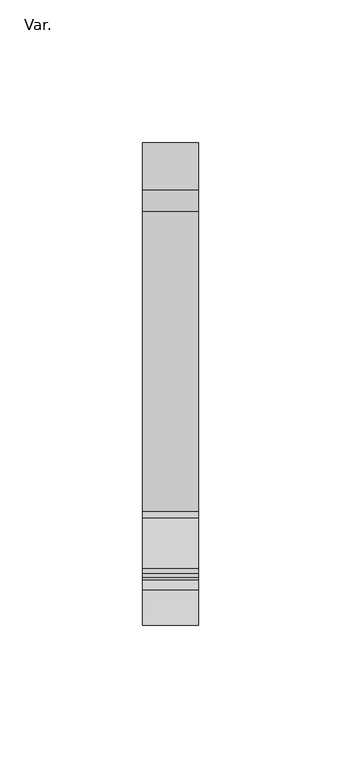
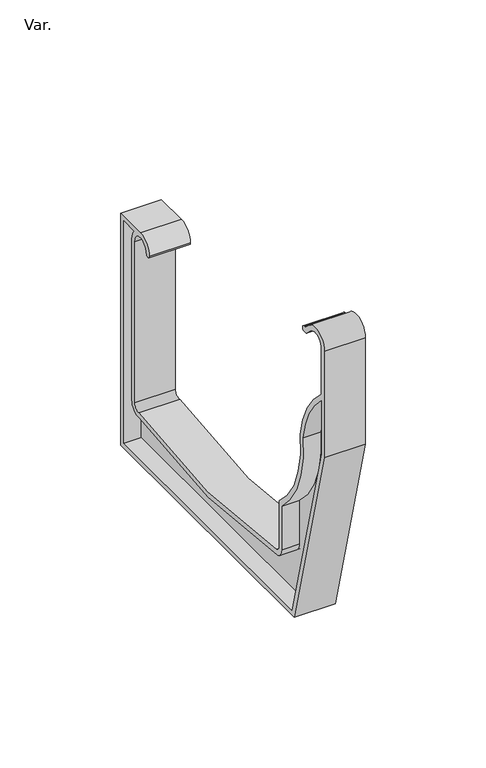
"""IFC4 building model written with IfcOpenShell, lengths in millimetres: pipe fitting geometry, PavcoWavin_UnionesDeTuberia_ZCanal Amazona_Soporte_NoUsarUnion : Var.."""

from ifc_helpers import new_model, si_unit, point, frame, frame_2d, origin, place, context, project, spatial, polyline, circle_curve, trimmed, segment, composite_curve, outline, extrude, source, transform, mapped, element, save


def var_03249e51(model_context):
    return source(origin(), model_context, "Body", "SweptSolid", [
        extrude(outline(composite_curve([segment(polyline([(69.4975041, 2.5), (-70.0651651, 2.5), (-94.4975041, 96.3201814), (-94.4975041, 123.3173663)]), True, "CONTINUOUS"), segment(trimmed(circle_curve(frame_2d((-124.7433697, 89.3256377)), 45.5), [point((-94.4975041, 123.3173663))], [point((-79.7012913, 95.7646726))], False, "CARTESIAN"), True, "CONTINUOUS"), segment(trimmed(circle_curve(frame_2d((-27.5254314, 89.9397563)), 52.5), [point((-79.7012913, 95.7646726))], [point((-62.0024959, 50.3470546))], True, "CARTESIAN"), True, "CONTINUOUS"), segment(polyline([(-62.0024959, 50.3470546), (-62.0024959, 28.3445666)]), True, "CONTINUOUS"), segment(trimmed(circle_curve(frame_2d((-56.4843628, 28.3445666)), 5.5181332), [point((-62.0024959, 28.3445666))], [point((-57.524524, 22.9253547))], True, "CARTESIAN"), True, "CONTINUOUS"), segment(trimmed(circle_curve(frame_2d((0.0618426, 322.9487877)), 305.5), [point((-57.524524, 22.9253547))], [point((57.0486535, 22.8108971))], True, "CARTESIAN"), True, "CONTINUOUS"), segment(trimmed(circle_curve(frame_2d((57.4978903, 28.2925197)), 5.5), [point((57.0486535, 22.8108971))], [point((62.9971822, 28.3807691))], True, "CARTESIAN"), True, "CONTINUOUS"), segment(polyline([(62.9971822, 28.3807691), (62.9971822, 110.0146184)]), True, "CONTINUOUS"), segment(trimmed(circle_curve(frame_2d((55.6769073, 110.0146184)), 7.3202749), [point((62.9971822, 110.0146184))], [point((61.087674, 114.9451385))], True, "CARTESIAN"), True, "CONTINUOUS"), segment(polyline([(61.087674, 114.9451385), (69.4975041, 114.9451385), (69.4975041, 2.5)]), True, "CONTINUOUS")], self_intersect=False)), frame((8.45, 0.0, 0.0), z_axis=(1.0, 0.0, 0.0), x_axis=(0.0, 1.0, 0.0)), (0.0, 0.0, 1.0), 2.7),
        extrude(outline(composite_curve([segment(polyline([(-71.9975041, 0.0), (-96.9975041, 96.0), (-96.9975041, 149.9487471)]), True, "CONTINUOUS"), segment(trimmed(circle_curve(frame_2d((-89.497311, 149.9487471)), 7.5001931), [point((-96.9975041, 149.9487471))], [point((-84.5367553, 155.5742057))], False, "CARTESIAN"), True, "CONTINUOUS"), segment(polyline([(-84.5367553, 155.5742057), (-81.047311, 152.4971974), (-80.247311, 152.4971974)]), True, "CONTINUOUS"), segment(trimmed(circle_curve(frame_2d((-80.247311, 151.2471974)), 1.25), [point((-80.247311, 152.4971974))], [point((-80.247311, 149.9971974))], False, "CARTESIAN"), True, "CONTINUOUS"), segment(polyline([(-80.247311, 149.9971974), (-81.9921318, 149.9971974), (-86.1902313, 153.6991011)]), True, "CONTINUOUS"), segment(trimmed(circle_curve(frame_2d((-89.497311, 149.9487471)), 5.0001931), [point((-86.1902313, 153.6991011))], [point((-94.4975041, 149.9487471))], True, "CARTESIAN"), True, "CONTINUOUS"), segment(polyline([(-94.4975041, 149.9487471), (-94.4975041, 126.597445)]), True, "CONTINUOUS"), segment(trimmed(circle_curve(frame_2d((-124.7433697, 89.3256377)), 48.0), [point((-94.4975041, 126.597445))], [point((-77.1813737, 95.7953005))], False, "CARTESIAN"), True, "CONTINUOUS"), segment(trimmed(circle_curve(frame_2d((-27.5254314, 89.9397563)), 50.0), [point((-77.1813737, 95.7953005))], [point((-59.5024959, 51.5019188))], True, "CARTESIAN"), True, "CONTINUOUS"), segment(polyline([(-59.5024959, 51.5019188), (-59.5024959, 28.3445666)]), True, "CONTINUOUS"), segment(trimmed(circle_curve(frame_2d((-56.4843628, 28.3445666)), 3.0181332), [point((-59.5024959, 28.3445666))], [point((-57.0532771, 25.3805382))], True, "CARTESIAN"), True, "CONTINUOUS"), segment(trimmed(circle_curve(frame_2d((0.0618426, 322.9487877)), 303.0), [point((-57.0532771, 25.3805382))], [point((56.9657944, 25.3400845))], True, "CARTESIAN"), True, "CONTINUOUS"), segment(trimmed(circle_curve(frame_2d((57.4978903, 28.2925197)), 3.0), [point((56.9657944, 25.3400845))], [point((60.4978903, 28.2925197))], True, "CARTESIAN"), True, "CONTINUOUS"), segment(polyline([(60.4978903, 28.2925197), (60.4978903, 110.0146184)]), True, "CONTINUOUS"), segment(trimmed(circle_curve(frame_2d((55.4976972, 110.0146184)), 5.0001931), [point((60.4978903, 110.0146184))], [point((50.4975041, 110.0146184))], True, "CARTESIAN"), True, "CONTINUOUS"), segment(trimmed(circle_curve(frame_2d((49.247665, 110.0146184)), 1.2498391), [point((50.4975041, 110.0146184))], [point((47.9978259, 110.0146184))], False, "CARTESIAN"), True, "CONTINUOUS"), segment(trimmed(circle_curve(frame_2d((55.4975041, 109.9451385)), 7.5), [point((47.9978259, 110.0146184))], [point((55.4975041, 117.4451385))], False, "CARTESIAN"), True, "CONTINUOUS"), segment(polyline([(55.4975041, 117.4451385), (71.9975041, 117.4451385), (71.9975041, 0.0), (-71.9975041, 0.0)]), True, "CONTINUOUS")], self_intersect=False), holes=[composite_curve([segment(polyline([(69.4975041, 2.5), (69.4975041, 114.9451385), (61.088382, 114.9451385)]), True, "CONTINUOUS"), segment(trimmed(circle_curve(frame_2d((55.6776153, 110.0146184)), 7.3202749), [point((61.088382, 114.9451385))], [point((62.9978903, 110.0146184))], False, "CARTESIAN"), True, "CONTINUOUS"), segment(polyline([(62.9978903, 110.0146184), (62.9978903, 28.2925197)]), True, "CONTINUOUS"), segment(trimmed(circle_curve(frame_2d((57.4978903, 28.2925197)), 5.5), [point((62.9978903, 28.2925197))], [point((57.0486535, 22.8108971))], False, "CARTESIAN"), True, "CONTINUOUS"), segment(trimmed(circle_curve(frame_2d((0.0618426, 322.9487877)), 305.5), [point((57.0486535, 22.8108971))], [point((-57.524524, 22.9253547))], False, "CARTESIAN"), True, "CONTINUOUS"), segment(trimmed(circle_curve(frame_2d((-56.4843628, 28.3445666)), 5.5181332), [point((-57.524524, 22.9253547))], [point((-62.0024959, 28.3445666))], False, "CARTESIAN"), True, "CONTINUOUS"), segment(polyline([(-62.0024959, 28.3445666), (-62.0024959, 50.3470546)]), True, "CONTINUOUS"), segment(trimmed(circle_curve(frame_2d((-27.5254314, 89.9397563)), 52.5), [point((-62.0024959, 50.3470546))], [point((-79.7012913, 95.7646726))], False, "CARTESIAN"), True, "CONTINUOUS"), segment(trimmed(circle_curve(frame_2d((-124.7433697, 89.3256377)), 45.5), [point((-79.7012913, 95.7646726))], [point((-94.4975041, 123.3173663))], True, "CARTESIAN"), True, "CONTINUOUS"), segment(polyline([(-94.4975041, 123.3173663), (-94.4975041, 96.3201814), (-70.0651651, 2.5), (69.4975041, 2.5)]), True, "CONTINUOUS")], self_intersect=False)]), frame((0.0, 0.0, 0.0), z_axis=(1.0, 0.0, 0.0), x_axis=(0.0, 1.0, 0.0)), (0.0, 0.0, 1.0), 19.6),
    ])


if __name__ == "__main__":
    model = new_model("IFC4")
    model_context = context("Model", 3, world=origin())
    ifc_project = project(units=[si_unit("LENGTHUNIT", "METRE", prefix="MILLI")], contexts=[model_context])
    site = spatial("IfcSite", under=ifc_project)
    building = spatial("IfcBuilding", under=site)
    placement = place(None, origin())
    var_shape = var_03249e51(model_context)
    element("IfcPipeFitting", 1, ObjectType="PavcoWavin_UnionesDeTuberia_ZCanal Amazona_Soporte_NoUsarUnion : Var.", at=placement, inside=building, context=model_context, shape_type="MappedRepresentation", body=[
        mapped(var_shape, transform((0.0, 0.0, 0.0), x_axis=(1.0, 0.0, 0.0), y_axis=(0.0, 1.0, 0.0), z_axis=(0.0, 0.0, 1.0))),
    ])
    save(model, "model.ifc")
